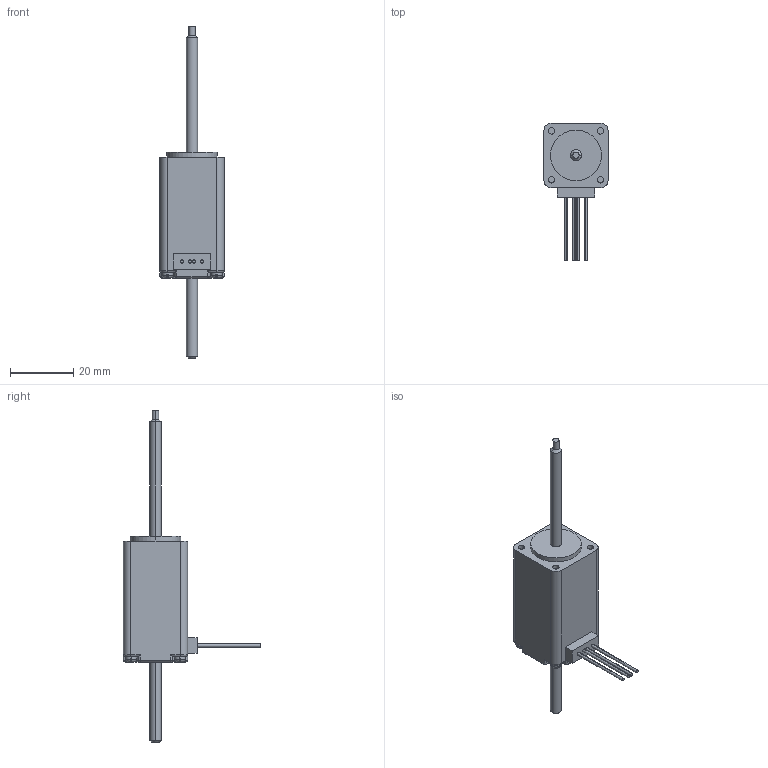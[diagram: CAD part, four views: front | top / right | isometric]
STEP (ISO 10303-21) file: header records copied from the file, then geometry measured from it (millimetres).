
FILE_DESCRIPTION (( 'STEP AP214' ), '1' );
FILE_NAME ('AMETEK-21F4AA-2.5-4-12.STEP', '2022-02-28T12:00:06', ( '' ), ( '' ), 'SwSTEP 2.0', 'SolidWorks 2021', '' );
FILE_SCHEMA (( 'AUTOMOTIVE_DESIGN' ));
Length unit declared in the file: inch
Products named in the file (3): 21000_Non_Captive; 21000_Non_Captive_Screw; AMETEK-21F4AA-2.5-4-12
Assembly tree (2 placements, depth 2):
  AMETEK-21F4AA-2.5-4-12
    21000_Non_Captive
    21000_Non_Captive_Screw
Bounding box: 20.2 x 43.2 x 104.6 mm (x, y, z)
Volume: 16327.7 mm3; surface area: 5865.5 mm2
Topology: 2 solids, 2 shells, 193 faces, 476 edges, 294 vertices
Faces by surface type: plane 87, cylinder 70, torus 24, sphere 8, cone 4
Entity records: 8396 total; most frequent: CARTESIAN_POINT 1240, DIRECTION 1006, ORIENTED_EDGE 936, EDGE_CURVE 468, AXIS2_PLACEMENT_3D 380, VERTEX_POINT 294, VECTOR 246, LINE 246
